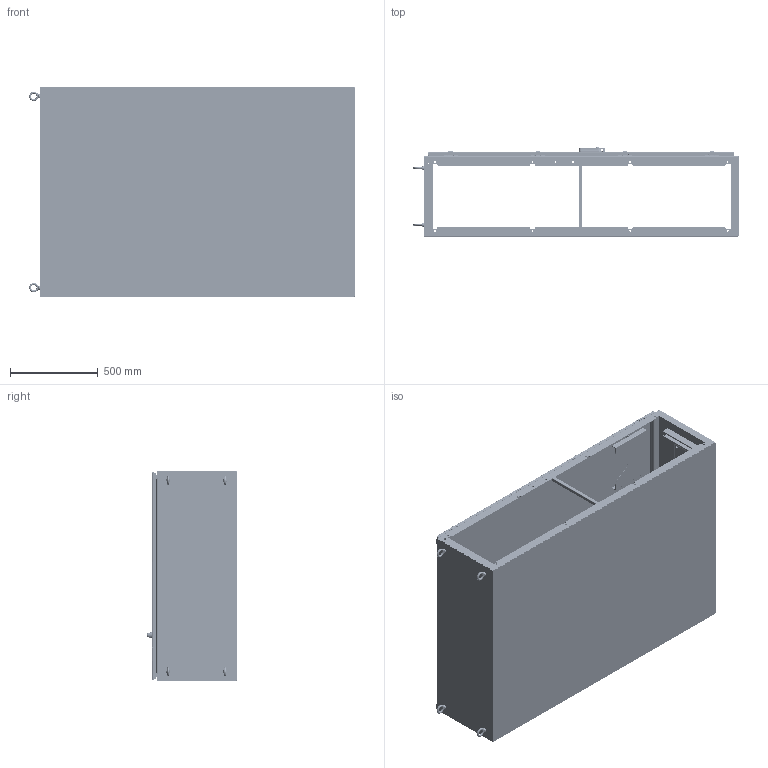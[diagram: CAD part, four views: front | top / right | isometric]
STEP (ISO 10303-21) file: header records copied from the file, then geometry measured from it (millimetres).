
FILE_DESCRIPTION((''),'2;1');
FILE_NAME('MODEL-256_ASM','2021-08-02T14:06:40',('mikek'),('SAGINAW CONTROL & ENGINEERING'),'CREO PARAMETRIC BY PTC INC, 2017260','CREO PARAMETRIC BY PTC INC, 2017260','');
FILE_SCHEMA(('AUTOMOTIVE_DESIGN { 1 0 10303 214 1 1 1 1 }'));
Length unit declared in the file: inch
Products named in the file (75): MODEL-256-R-SD; MODEL-256-BCK; MODEL-256-L-SD; MODEL-256-TP; MODEL-256-BTM; MODEL-256-BB; MODEL-256-MSTR-DR; 100837; 111267; 100882; 129334-HANDLE-STOP; 129334-HANDLE-BASE; 129334-INSERT-SPRING; 129334-HANDLE-PIN; 129334-HANDLE-SHAFT; 129334-HANDLE-LOCK-SCREW; 129334-HANDLE; 129334-COINPROOF-INSERT; 129334-HANDLE-LOCK; 129334-HANDLE-SHAFT-O-RING; 129334-HANDLE_ASM; 129334-LOCK-NUT; 129334-BASE-CAP; 129334-CAM-ADAPTER; 129334-NUT; 129334_ASM; 102237; 100030; 102237_ASM; MODEL-256-ROD-UPR; 128146; 128145; 128144; 102482; MODEL-256-ROD-UPR_ASM; 128143; 112504; MODEL-256-ROD-LWR; MODEL-256-ROD-LWR_ASM; MODEL-256-GSKT-MSTR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
Assembly tree (189 placements, depth 5):
  MODEL-256_ASM
    MODEL-256-R-SD
    MODEL-256-BCK
    MODEL-256-L-SD
    MODEL-256-TP
    MODEL-256-BTM
    MODEL-256-BB
    MODEL-256-MASTER-DR-ASSY_ASM
      MODEL-256-MSTR-DR
      100837  x7
      111267
      100882  x12
      129334_ASM
        129334-HANDLE-STOP
        129334-HANDLE-BASE
        129334-HANDLE_ASM
          129334-INSERT-SPRING
          129334-HANDLE-PIN
          129334-HANDLE-SHAFT
          129334-HANDLE-LOCK-SCREW
          129334-HANDLE
          129334-COINPROOF-INSERT
          129334-HANDLE-LOCK
          129334-HANDLE-SHAFT-O-RING
        129334-LOCK-NUT
        129334-BASE-CAP
        129334-CAM-ADAPTER
        129334-NUT  x2
      102237_ASM
        102237
        100030  x2
      MODEL-256-ROD-UPR_ASM
        MODEL-256-ROD-UPR
        128146
        128145
        128144
        102482  x2
      128143  x2
      112504  x2
      MODEL-256-ROD-LWR_ASM
        MODEL-256-ROD-LWR
        128146
        128145
        128144
        102482  x2
      MODEL-256-GSKT-MSTR
      128257_ASM  x4
        128257
        126397
      126393  x4
      102483  x4
      101369_ASM  x4
        101369
        101369-STUD
      101221  x4
    MODEL-256-SLAVE-DR-ASSY_ASM
      MODEL-256-SLV-DR
      100837  x3
      MODEL-256-GSKT-SLV
      128257_ASM  x4
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Bounding box: 1861.26 x 509.87 x 1204.01 mm (x, y, z)
Volume: 20721513.5 mm3; surface area: 15302502.5 mm2
Topology: 202 solids, 202 shells, 18995 faces, 50489 edges, 31863 vertices
Faces by surface type: plane 6453, bspline 6060, cylinder 4599, torus 973, cone 620, sphere 287, extrusion 3
Entity records: 309920 total; most frequent: CARTESIAN_POINT 126368, ORIENTED_EDGE 27350, DIRECTION 24775, PRESENTATION_STYLE_ASSIGNMENT 14114, STYLED_ITEM 14114, EDGE_CURVE 13675, CURVE_STYLE 13663, AXIS2_PLACEMENT_3D 9310
